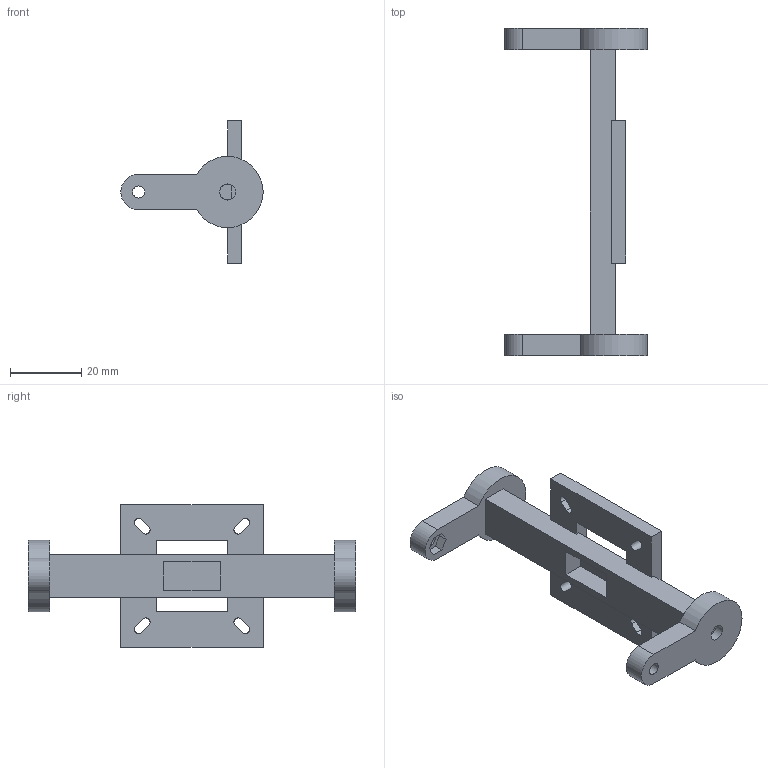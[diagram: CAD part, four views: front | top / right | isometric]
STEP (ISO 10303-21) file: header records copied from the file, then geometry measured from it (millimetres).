
FILE_DESCRIPTION(('Open CASCADE Model'),'2;1');
FILE_NAME('Open CASCADE Shape Model','2026-09-18T15:14:33',('Author'),( 'Open CASCADE'),'Open CASCADE STEP processor 7.9','Open CASCADE 7.9' ,'Unknown');
FILE_SCHEMA(('AUTOMOTIVE_DESIGN { 1 0 10303 214 1 1 1 1 }'));
Length unit declared in the file: millimetre
Products named in the file (1): Open CASCADE STEP translator 7.9 8
Bounding box: 40 x 92 x 40 mm (x, y, z)
Volume: 15806 mm3; surface area: 9759.2 mm2
Topology: 1 solids, 1 shells, 88 faces, 252 edges, 168 vertices
Faces by surface type: plane 70, cylinder 18
Full cylindrical faces by diameter (mm): 3.4 x2, 4.5 x2
Entity records: 6082 total; most frequent: CARTESIAN_POINT 1361, DIRECTION 762, ORIENTED_EDGE 504, LINE 504, VECTOR 504, PCURVE 504, DEFINITIONAL_REPRESENTATION 504, EDGE_CURVE 252
